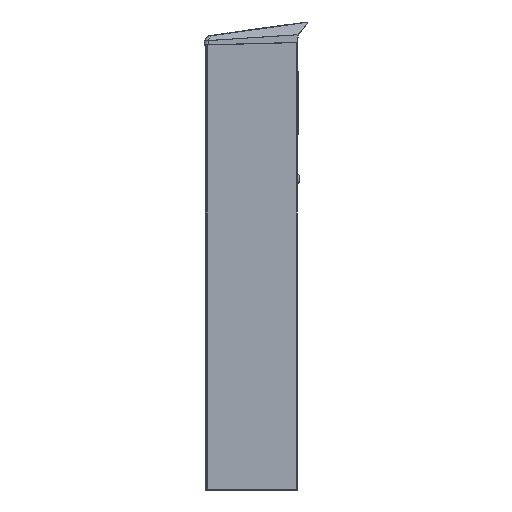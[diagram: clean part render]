
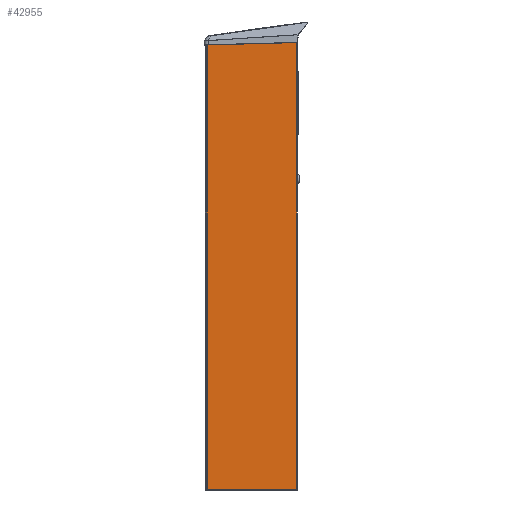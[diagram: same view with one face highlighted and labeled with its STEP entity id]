
A CAD part, left-side view. The second image highlights one B-rep face of the part: STEP entity #42955.
In plain terms, the highlighted planar face has unit normal (-1, 0.026, 0).
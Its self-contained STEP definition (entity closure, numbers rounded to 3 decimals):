
#8871=ORIENTED_EDGE('',*,*,#18188,.F.);
#8872=ORIENTED_EDGE('',*,*,#18285,.T.);
#8873=ORIENTED_EDGE('',*,*,#18493,.T.);
#8874=ORIENTED_EDGE('',*,*,#18393,.T.);
#18188=EDGE_CURVE('',#25547,#25548,#32098,.T.);
#18285=EDGE_CURVE('',#25547,#25642,#32146,.T.);
#18393=EDGE_CURVE('',#25715,#25548,#32217,.T.);
#18493=EDGE_CURVE('',#25642,#25715,#32302,.T.);
#25547=VERTEX_POINT('',#70307);
#25548=VERTEX_POINT('',#70309);
#25642=VERTEX_POINT('',#70501);
#25715=VERTEX_POINT('',#70725);
#32098=LINE('',#70308,#34936);
#32146=LINE('',#70500,#34984);
#32217=LINE('',#70724,#35055);
#32302=LINE('',#70923,#35140);
#34936=VECTOR('',#57850,1000.);
#34984=VECTOR('',#57998,1000.);
#35055=VECTOR('',#58209,1000.);
#35140=VECTOR('',#58420,1000.);
#37829=EDGE_LOOP('',(#8871,#8872,#8873,#8874));
#40098=FACE_BOUND('',#37829,.T.);
#42328=PLANE('',#53175);
#42955=ADVANCED_FACE('',(#40098),#42328,.F.);
#53175=AXIS2_PLACEMENT_3D('',#70922,#58418,#58419);
#57850=DIRECTION('',(-0.026,-1.,0.));
#57998=DIRECTION('',(0.,0.,-1.));
#58209=DIRECTION('',(0.,0.,1.));
#58418=DIRECTION('',(1.,-0.026,0.));
#58419=DIRECTION('',(0.,0.,-1.));
#58420=DIRECTION('',(-0.026,-1.,0.));
#70307=CARTESIAN_POINT('',(-138.815,222.163,1154.));
#70308=CARTESIAN_POINT('',(-138.792,223.064,1154.));
#70309=CARTESIAN_POINT('',(-144.837,-7.781,1154.));
#70500=CARTESIAN_POINT('',(-138.815,222.163,1302.15));
#70501=CARTESIAN_POINT('',(-138.815,222.163,2.));
#70724=CARTESIAN_POINT('',(-144.837,-7.781,1302.15));
#70725=CARTESIAN_POINT('',(-144.837,-7.781,2.));
#70922=CARTESIAN_POINT('',(-138.792,223.064,1302.15));
#70923=CARTESIAN_POINT('',(-138.676,227.487,2.));
